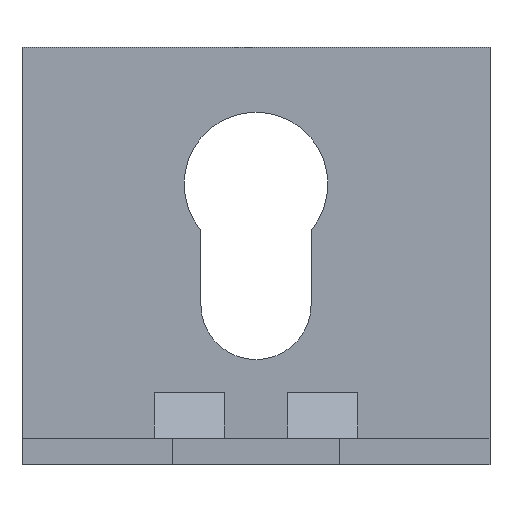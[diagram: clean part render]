
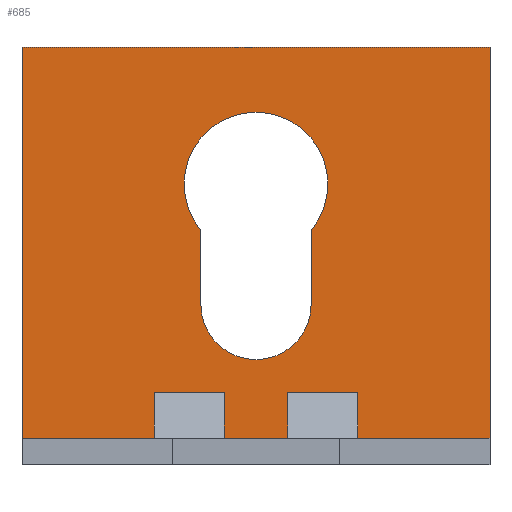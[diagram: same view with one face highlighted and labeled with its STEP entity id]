
A CAD part, left-side view. The second image highlights one B-rep face of the part: STEP entity #685.
In plain terms, the highlighted planar face has unit normal (-1, 0, 0).
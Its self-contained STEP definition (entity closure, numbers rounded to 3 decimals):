
#123 = CARTESIAN_POINT ( 'NONE',  ( -1.6, -14., 25. ) ) ;
#124 = DIRECTION ( 'NONE',  ( 0., 1., 0. ) ) ;
#125 = VECTOR ( 'NONE', #124, 1000. ) ;
#126 = CARTESIAN_POINT ( 'NONE',  ( -1.6, 14., 25. ) ) ;
#127 = LINE ( 'NONE', #126, #125 ) ;
#184 = DIRECTION ( 'NONE',  ( -1., 0., 0. ) ) ;
#273 = CARTESIAN_POINT ( 'NONE',  ( -1.6, 0., 9.6 ) ) ;
#274 = AXIS2_PLACEMENT_3D ( 'NONE', #273, #184, #409 ) ;
#279 = CIRCLE ( 'NONE', #274, 3.3 ) ;
#365 = CARTESIAN_POINT ( 'NONE',  ( -1.6, 0., 16.8 ) ) ;
#366 = CIRCLE ( 'NONE', #447, 4.3 ) ;
#392 = VECTOR ( 'NONE', #397, 1000. ) ;
#397 = DIRECTION ( 'NONE',  ( 0., 0., -1. ) ) ;
#398 = CARTESIAN_POINT ( 'NONE',  ( -1.6, -3.3, 9.6 ) ) ;
#399 = LINE ( 'NONE', #398, #392 ) ;
#409 = DIRECTION ( 'NONE',  ( 0., -1., 0. ) ) ;
#410 = CARTESIAN_POINT ( 'NONE',  ( -1.6, -14., 1.6 ) ) ;
#411 = CARTESIAN_POINT ( 'NONE',  ( -1.6, 1.9, 1.6 ) ) ;
#444 = CARTESIAN_POINT ( 'NONE',  ( -1.6, -3.3, 14.043 ) ) ;
#445 = DIRECTION ( 'NONE',  ( 0., -1., 0. ) ) ;
#446 = DIRECTION ( 'NONE',  ( -1., 0., 0. ) ) ;
#447 = AXIS2_PLACEMENT_3D ( 'NONE', #365, #446, #445 ) ;
#456 = DIRECTION ( 'NONE',  ( 0., 0., -1. ) ) ;
#457 = VECTOR ( 'NONE', #456, 1000. ) ;
#458 = CARTESIAN_POINT ( 'NONE',  ( -1.6, 3.3, 9.6 ) ) ;
#459 = LINE ( 'NONE', #458, #457 ) ;
#518 = CARTESIAN_POINT ( 'NONE',  ( -1.6, 1.9, 4.331 ) ) ;
#519 = DIRECTION ( 'NONE',  ( 0., -1., 0. ) ) ;
#520 = VECTOR ( 'NONE', #519, 1000. ) ;
#524 = CARTESIAN_POINT ( 'NONE',  ( -1.6, 1.9, 25. ) ) ;
#525 = CARTESIAN_POINT ( 'NONE',  ( -1.6, 6.1, 1.6 ) ) ;
#526 = CARTESIAN_POINT ( 'NONE',  ( -1.6, -1.9, 1.6 ) ) ;
#527 = DIRECTION ( 'NONE',  ( 0., 1., 0. ) ) ;
#528 = VECTOR ( 'NONE', #527, 1000. ) ;
#529 = CARTESIAN_POINT ( 'NONE',  ( -1.6, -14., 4.331 ) ) ;
#530 = LINE ( 'NONE', #529, #528 ) ;
#531 = CARTESIAN_POINT ( 'NONE',  ( -1.6, 6.1, 4.331 ) ) ;
#540 = LINE ( 'NONE', #524, #592 ) ;
#541 = CARTESIAN_POINT ( 'NONE',  ( -1.6, -1.9, 4.331 ) ) ;
#542 = DIRECTION ( 'NONE',  ( 0., -1., 0. ) ) ;
#543 = VECTOR ( 'NONE', #542, 1000. ) ;
#544 = CARTESIAN_POINT ( 'NONE',  ( -1.6, -14., 1.6 ) ) ;
#545 = LINE ( 'NONE', #544, #543 ) ;
#546 = DIRECTION ( 'NONE',  ( 0., 0., -1. ) ) ;
#547 = CARTESIAN_POINT ( 'NONE',  ( -1.6, 3.3, 9.6 ) ) ;
#551 = DIRECTION ( 'NONE',  ( 0., 1., 0. ) ) ;
#552 = VECTOR ( 'NONE', #551, 1000. ) ;
#553 = CARTESIAN_POINT ( 'NONE',  ( -1.6, 14., 1.6 ) ) ;
#554 = LINE ( 'NONE', #553, #552 ) ;
#555 = DIRECTION ( 'NONE',  ( 0., 0., -1. ) ) ;
#556 = VECTOR ( 'NONE', #555, 1000. ) ;
#557 = CARTESIAN_POINT ( 'NONE',  ( -1.6, -14., 25. ) ) ;
#558 = LINE ( 'NONE', #557, #556 ) ;
#559 = VECTOR ( 'NONE', #546, 1000. ) ;
#560 = CARTESIAN_POINT ( 'NONE',  ( -1.6, 6.1, 25. ) ) ;
#561 = LINE ( 'NONE', #560, #559 ) ;
#562 = DIRECTION ( 'NONE',  ( 0., 0., -1. ) ) ;
#563 = VECTOR ( 'NONE', #562, 1000. ) ;
#564 = DIRECTION ( 'NONE',  ( 0., 0., -1. ) ) ;
#570 = CARTESIAN_POINT ( 'NONE',  ( -1.6, -6.1, 1.6 ) ) ;
#575 = DIRECTION ( 'NONE',  ( 0., 1., 0. ) ) ;
#576 = VECTOR ( 'NONE', #575, 1000. ) ;
#577 = CARTESIAN_POINT ( 'NONE',  ( -1.6, 14., 1.6 ) ) ;
#578 = VECTOR ( 'NONE', #587, 1000. ) ;
#579 = CARTESIAN_POINT ( 'NONE',  ( -1.6, -6.1, 25. ) ) ;
#580 = LINE ( 'NONE', #579, #578 ) ;
#581 = CARTESIAN_POINT ( 'NONE',  ( -1.6, 14., 4.331 ) ) ;
#582 = LINE ( 'NONE', #581, #520 ) ;
#583 = LINE ( 'NONE', #577, #576 ) ;
#584 = CARTESIAN_POINT ( 'NONE',  ( -1.6, -6.1, 4.331 ) ) ;
#587 = DIRECTION ( 'NONE',  ( 0., 0., -1. ) ) ;
#588 = CARTESIAN_POINT ( 'NONE',  ( -1.6, -1.9, 25. ) ) ;
#589 = LINE ( 'NONE', #588, #563 ) ;
#592 = VECTOR ( 'NONE', #564, 1000. ) ;
#679 = EDGE_CURVE ( 'NONE', #744, #742, #1261, .T. ) ;
#685 = ADVANCED_FACE ( 'NONE', ( #1256, #1264 ), #1263, .T. ) ;
#711 = VERTEX_POINT ( 'NONE', #1301 ) ;
#716 = EDGE_CURVE ( 'NONE', #799, #711, #1294, .T. ) ;
#742 = VERTEX_POINT ( 'NONE', #1527 ) ;
#744 = VERTEX_POINT ( 'NONE', #1526 ) ;
#762 = EDGE_CURVE ( 'NONE', #711, #763, #1476, .T. ) ;
#763 = VERTEX_POINT ( 'NONE', #1471 ) ;
#773 = EDGE_LOOP ( 'NONE', ( #1196, #1245, #1232, #1244, #1204, #1262, #1206, #1207, #1345, #1306, #1222, #1210 ) ) ;
#799 = VERTEX_POINT ( 'NONE', #1497 ) ;
#843 = VERTEX_POINT ( 'NONE', #1403 ) ;
#956 = EDGE_CURVE ( 'NONE', #957, #744, #127, .T. ) ;
#957 = VERTEX_POINT ( 'NONE', #123 ) ;
#1122 = ORIENTED_EDGE ( 'NONE', *, *, #1123, .F. ) ;
#1123 = EDGE_CURVE ( 'NONE', #763, #1225, #459, .T. ) ;
#1124 = ORIENTED_EDGE ( 'NONE', *, *, #762, .F. ) ;
#1125 = ORIENTED_EDGE ( 'NONE', *, *, #716, .F. ) ;
#1126 = ORIENTED_EDGE ( 'NONE', *, *, #1127, .F. ) ;
#1127 = EDGE_CURVE ( 'NONE', #1128, #799, #366, .T. ) ;
#1128 = VERTEX_POINT ( 'NONE', #444 ) ;
#1129 = ORIENTED_EDGE ( 'NONE', *, *, #1130, .T. ) ;
#1130 = EDGE_CURVE ( 'NONE', #1128, #843, #399, .T. ) ;
#1196 = ORIENTED_EDGE ( 'NONE', *, *, #1227, .F. ) ;
#1203 = VERTEX_POINT ( 'NONE', #411 ) ;
#1204 = ORIENTED_EDGE ( 'NONE', *, *, #1248, .T. ) ;
#1205 = VERTEX_POINT ( 'NONE', #410 ) ;
#1206 = ORIENTED_EDGE ( 'NONE', *, *, #956, .T. ) ;
#1207 = ORIENTED_EDGE ( 'NONE', *, *, #679, .T. ) ;
#1208 = EDGE_CURVE ( 'NONE', #1225, #843, #279, .T. ) ;
#1209 = VERTEX_POINT ( 'NONE', #525 ) ;
#1210 = ORIENTED_EDGE ( 'NONE', *, *, #1211, .T. ) ;
#1211 = EDGE_CURVE ( 'NONE', #1224, #1203, #540, .T. ) ;
#1212 = EDGE_LOOP ( 'NONE', ( #1213, #1122, #1124, #1125, #1126, #1129 ) ) ;
#1213 = ORIENTED_EDGE ( 'NONE', *, *, #1208, .F. ) ;
#1221 = VERTEX_POINT ( 'NONE', #531 ) ;
#1222 = ORIENTED_EDGE ( 'NONE', *, *, #1223, .T. ) ;
#1223 = EDGE_CURVE ( 'NONE', #1221, #1224, #582, .T. ) ;
#1224 = VERTEX_POINT ( 'NONE', #518 ) ;
#1225 = VERTEX_POINT ( 'NONE', #547 ) ;
#1226 = VERTEX_POINT ( 'NONE', #584 ) ;
#1227 = EDGE_CURVE ( 'NONE', #1305, #1203, #583, .T. ) ;
#1230 = VERTEX_POINT ( 'NONE', #570 ) ;
#1231 = EDGE_CURVE ( 'NONE', #1226, #1230, #580, .T. ) ;
#1232 = ORIENTED_EDGE ( 'NONE', *, *, #1250, .F. ) ;
#1244 = ORIENTED_EDGE ( 'NONE', *, *, #1231, .T. ) ;
#1245 = ORIENTED_EDGE ( 'NONE', *, *, #1246, .F. ) ;
#1246 = EDGE_CURVE ( 'NONE', #1249, #1305, #589, .T. ) ;
#1247 = EDGE_CURVE ( 'NONE', #1221, #1209, #561, .T. ) ;
#1248 = EDGE_CURVE ( 'NONE', #1230, #1205, #545, .T. ) ;
#1249 = VERTEX_POINT ( 'NONE', #541 ) ;
#1250 = EDGE_CURVE ( 'NONE', #1226, #1249, #530, .T. ) ;
#1256 = FACE_OUTER_BOUND ( 'NONE', #773, .T. ) ;
#1258 = DIRECTION ( 'NONE',  ( 0., 0., -1. ) ) ;
#1259 = VECTOR ( 'NONE', #1258, 1000. ) ;
#1260 = CARTESIAN_POINT ( 'NONE',  ( -1.6, 14., 25. ) ) ;
#1261 = LINE ( 'NONE', #1260, #1259 ) ;
#1262 = ORIENTED_EDGE ( 'NONE', *, *, #1307, .F. ) ;
#1263 = PLANE ( 'NONE',  #1312 ) ;
#1264 = FACE_BOUND ( 'NONE', #1212, .T. ) ;
#1292 = CARTESIAN_POINT ( 'NONE',  ( -1.6, 0., 16.8 ) ) ;
#1293 = AXIS2_PLACEMENT_3D ( 'NONE', #1292, #1344, #1343 ) ;
#1294 = CIRCLE ( 'NONE', #1293, 4.3 ) ;
#1301 = CARTESIAN_POINT ( 'NONE',  ( -1.6, 4.3, 16.8 ) ) ;
#1305 = VERTEX_POINT ( 'NONE', #526 ) ;
#1306 = ORIENTED_EDGE ( 'NONE', *, *, #1247, .F. ) ;
#1307 = EDGE_CURVE ( 'NONE', #957, #1205, #558, .T. ) ;
#1309 = DIRECTION ( 'NONE',  ( 0., -1., 0. ) ) ;
#1310 = DIRECTION ( 'NONE',  ( -1., 0., 0. ) ) ;
#1311 = CARTESIAN_POINT ( 'NONE',  ( -1.6, 14., 25. ) ) ;
#1312 = AXIS2_PLACEMENT_3D ( 'NONE', #1311, #1310, #1309 ) ;
#1343 = DIRECTION ( 'NONE',  ( 0., -1., 0. ) ) ;
#1344 = DIRECTION ( 'NONE',  ( -1., 0., 0. ) ) ;
#1345 = ORIENTED_EDGE ( 'NONE', *, *, #1346, .F. ) ;
#1346 = EDGE_CURVE ( 'NONE', #1209, #742, #554, .T. ) ;
#1403 = CARTESIAN_POINT ( 'NONE',  ( -1.6, -3.3, 9.6 ) ) ;
#1471 = CARTESIAN_POINT ( 'NONE',  ( -1.6, 3.3, 14.043 ) ) ;
#1472 = DIRECTION ( 'NONE',  ( 0., -1., 0. ) ) ;
#1473 = DIRECTION ( 'NONE',  ( -1., 0., 0. ) ) ;
#1474 = CARTESIAN_POINT ( 'NONE',  ( -1.6, 0., 16.8 ) ) ;
#1475 = AXIS2_PLACEMENT_3D ( 'NONE', #1474, #1473, #1472 ) ;
#1476 = CIRCLE ( 'NONE', #1475, 4.3 ) ;
#1497 = CARTESIAN_POINT ( 'NONE',  ( -1.6, -4.3, 16.8 ) ) ;
#1526 = CARTESIAN_POINT ( 'NONE',  ( -1.6, 14., 25. ) ) ;
#1527 = CARTESIAN_POINT ( 'NONE',  ( -1.6, 14., 1.6 ) ) ;
